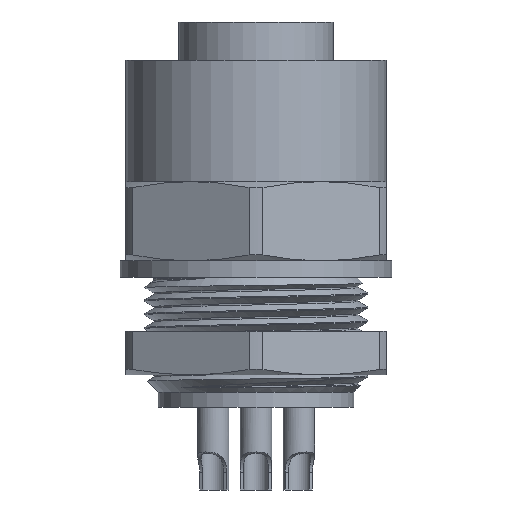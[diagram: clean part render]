
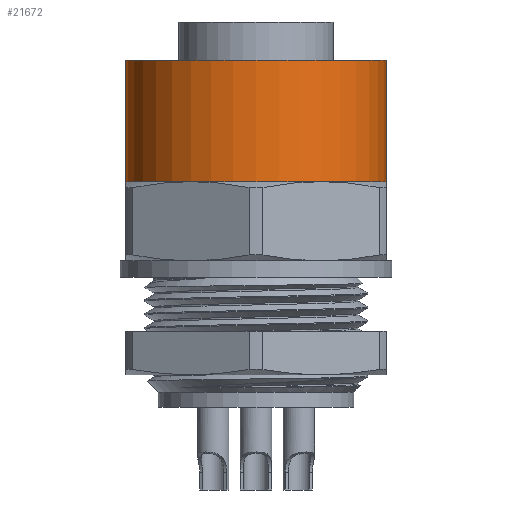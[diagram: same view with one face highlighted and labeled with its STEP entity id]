
A CAD part, front view. The second image highlights one B-rep face of the part: STEP entity #21672.
In plain terms, the highlighted cylindrical face has radius 12 mm (diameter 24 mm), a full revolution.
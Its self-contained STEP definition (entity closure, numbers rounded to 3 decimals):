
#1207 = EDGE_LOOP ( 'NONE', ( #20577, #6695, #10855, #13604, #18792, #2556 ) ) ;
#1418 = CARTESIAN_POINT ( 'NONE',  ( 0., 0., -14.7 ) ) ;
#1866 = DIRECTION ( 'NONE',  ( 0., 0., 1. ) ) ;
#2104 = CIRCLE ( 'NONE', #17570, 12. ) ;
#2536 = CIRCLE ( 'NONE', #23228, 12. ) ;
#2556 = ORIENTED_EDGE ( 'NONE', *, *, #32453, .T. ) ;
#3029 = VERTEX_POINT ( 'NONE', #15036 ) ;
#3624 = CARTESIAN_POINT ( 'NONE',  ( 0., 0., -14.7 ) ) ;
#4270 = EDGE_LOOP ( 'NONE', ( #28030 ) ) ;
#4655 = EDGE_CURVE ( 'NONE', #27876, #20784, #7276, .T. ) ;
#4945 = AXIS2_PLACEMENT_3D ( 'NONE', #14689, #1866, #32078 ) ;
#5264 = VERTEX_POINT ( 'NONE', #18749 ) ;
#5607 = DIRECTION ( 'NONE',  ( 1., 0., 0. ) ) ;
#5880 = CARTESIAN_POINT ( 'NONE',  ( 0., 0., -14.7 ) ) ;
#6110 = DIRECTION ( 'NONE',  ( 0., 0., 1. ) ) ;
#6477 = DIRECTION ( 'NONE',  ( 1., 0., 0. ) ) ;
#6695 = ORIENTED_EDGE ( 'NONE', *, *, #10322, .T. ) ;
#6937 = CARTESIAN_POINT ( 'NONE',  ( 0., 0., -14.7 ) ) ;
#7276 = CIRCLE ( 'NONE', #4945, 12. ) ;
#7873 = VERTEX_POINT ( 'NONE', #32476 ) ;
#8269 = DIRECTION ( 'NONE',  ( 0., 0., 1. ) ) ;
#9781 = DIRECTION ( 'NONE',  ( 1., 0., 0. ) ) ;
#10322 = EDGE_CURVE ( 'NONE', #7873, #25293, #2536, .T. ) ;
#10534 = VERTEX_POINT ( 'NONE', #18594 ) ;
#10855 = ORIENTED_EDGE ( 'NONE', *, *, #22643, .T. ) ;
#11724 = EDGE_CURVE ( 'NONE', #5264, #5264, #19744, .T. ) ;
#12981 = CARTESIAN_POINT ( 'NONE',  ( 12., 0., -14.7 ) ) ;
#13604 = ORIENTED_EDGE ( 'NONE', *, *, #14449, .T. ) ;
#14135 = EDGE_CURVE ( 'NONE', #3029, #7873, #2104, .T. ) ;
#14187 = DIRECTION ( 'NONE',  ( 1., 0., 0. ) ) ;
#14223 = AXIS2_PLACEMENT_3D ( 'NONE', #6937, #19217, #14187 ) ;
#14449 = EDGE_CURVE ( 'NONE', #10534, #27876, #21337, .T. ) ;
#14689 = CARTESIAN_POINT ( 'NONE',  ( 0., 0., -14.7 ) ) ;
#14980 = CYLINDRICAL_SURFACE ( 'NONE', #19072, 12. ) ;
#15036 = CARTESIAN_POINT ( 'NONE',  ( -6., 10.392, -14.7 ) ) ;
#15185 = CIRCLE ( 'NONE', #31852, 12. ) ;
#17129 = CARTESIAN_POINT ( 'NONE',  ( 0., 0., -3.5 ) ) ;
#17570 = AXIS2_PLACEMENT_3D ( 'NONE', #23272, #8269, #25793 ) ;
#18187 = CIRCLE ( 'NONE', #25201, 12. ) ;
#18594 = CARTESIAN_POINT ( 'NONE',  ( 6., -10.392, -14.7 ) ) ;
#18749 = CARTESIAN_POINT ( 'NONE',  ( 12., 0., -3.5 ) ) ;
#18792 = ORIENTED_EDGE ( 'NONE', *, *, #4655, .T. ) ;
#19072 = AXIS2_PLACEMENT_3D ( 'NONE', #20616, #22814, #5607 ) ;
#19217 = DIRECTION ( 'NONE',  ( 0., 0., 1. ) ) ;
#19688 = FACE_OUTER_BOUND ( 'NONE', #4270, .T. ) ;
#19744 = CIRCLE ( 'NONE', #22798, 12. ) ;
#19848 = DIRECTION ( 'NONE',  ( 0., 0., 1. ) ) ;
#20473 = FACE_OUTER_BOUND ( 'NONE', #1207, .T. ) ;
#20577 = ORIENTED_EDGE ( 'NONE', *, *, #14135, .T. ) ;
#20616 = CARTESIAN_POINT ( 'NONE',  ( 0., 0., -3.5 ) ) ;
#20784 = VERTEX_POINT ( 'NONE', #29387 ) ;
#21158 = DIRECTION ( 'NONE',  ( 0., 0., 1. ) ) ;
#21337 = CIRCLE ( 'NONE', #14223, 12. ) ;
#21672 = ADVANCED_FACE ( 'NONE', ( #20473, #19688 ), #14980, .T. ) ;
#22643 = EDGE_CURVE ( 'NONE', #25293, #10534, #15185, .T. ) ;
#22798 = AXIS2_PLACEMENT_3D ( 'NONE', #17129, #19848, #9781 ) ;
#22814 = DIRECTION ( 'NONE',  ( 0., 0., 1. ) ) ;
#23228 = AXIS2_PLACEMENT_3D ( 'NONE', #5880, #6110, #30736 ) ;
#23272 = CARTESIAN_POINT ( 'NONE',  ( 0., 0., -14.7 ) ) ;
#23889 = DIRECTION ( 'NONE',  ( 0., 0., 1. ) ) ;
#25201 = AXIS2_PLACEMENT_3D ( 'NONE', #3624, #21158, #29025 ) ;
#25293 = VERTEX_POINT ( 'NONE', #31562 ) ;
#25793 = DIRECTION ( 'NONE',  ( 1., 0., 0. ) ) ;
#27876 = VERTEX_POINT ( 'NONE', #12981 ) ;
#28030 = ORIENTED_EDGE ( 'NONE', *, *, #11724, .F. ) ;
#29025 = DIRECTION ( 'NONE',  ( 1., 0., 0. ) ) ;
#29387 = CARTESIAN_POINT ( 'NONE',  ( 6., 10.392, -14.7 ) ) ;
#30736 = DIRECTION ( 'NONE',  ( 1., 0., 0. ) ) ;
#31562 = CARTESIAN_POINT ( 'NONE',  ( -6., -10.392, -14.7 ) ) ;
#31852 = AXIS2_PLACEMENT_3D ( 'NONE', #1418, #23889, #6477 ) ;
#32078 = DIRECTION ( 'NONE',  ( 1., 0., 0. ) ) ;
#32453 = EDGE_CURVE ( 'NONE', #20784, #3029, #18187, .T. ) ;
#32476 = CARTESIAN_POINT ( 'NONE',  ( -12., 0., -14.7 ) ) ;
